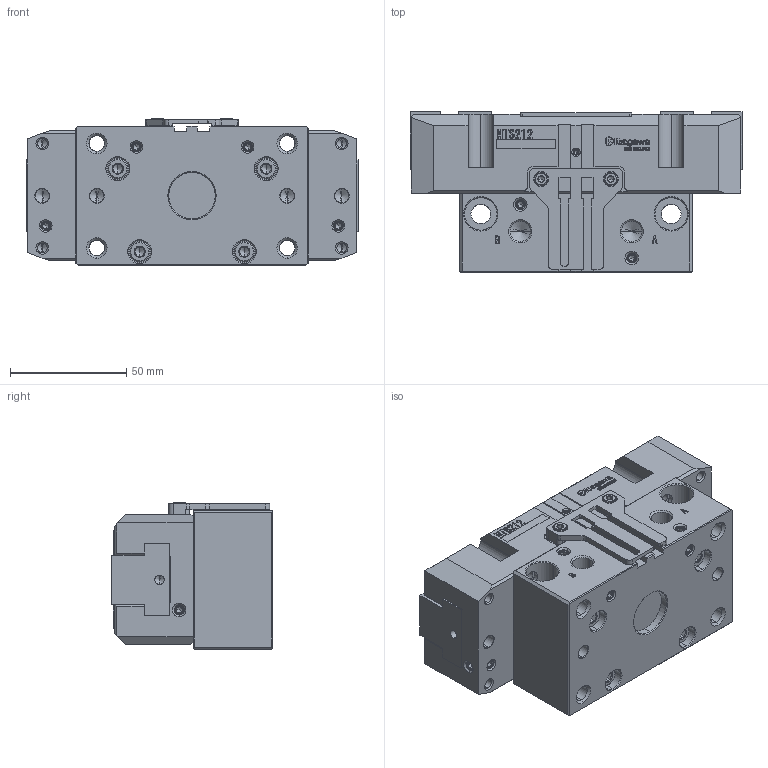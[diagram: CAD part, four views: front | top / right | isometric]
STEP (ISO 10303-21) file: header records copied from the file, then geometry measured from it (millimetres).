
FILE_DESCRIPTION (( 'STEP AP214' ), '1' );
FILE_NAME ('NTS212-UC.STEP', '2025-01-07T06:03:03', ( '' ), ( '' ), 'SwSTEP 2.0', 'SolidWorks 2022', '' );
FILE_SCHEMA (( 'AUTOMOTIVE_DESIGN' ));
Length unit declared in the file: millimetre
Products named in the file (11): BOLT1^HP-NTS212; NTS212-UC; COVER^HP-NTS212; REAR BODY^HP-NTS212; S-TOME1^HP-NTS212; BOLT2^HP-NTS212; BRACKET^HP-NTS212; BODY^HP-NTS212; S-TOME2^HP-NTS212; S-SARA^HP-NTS212; MASTER JAW^HP-NTS212
Assembly tree (26 placements, depth 2):
  NTS212-UC
    BODY^HP-NTS212
    REAR BODY^HP-NTS212
    MASTER JAW^HP-NTS212  x2
    COVER^HP-NTS212
    BRACKET^HP-NTS212
    BOLT1^HP-NTS212  x2
    BOLT2^HP-NTS212  x4
    S-TOME1^HP-NTS212  x9
    S-TOME2^HP-NTS212
    S-SARA^HP-NTS212  x4
Bounding box: 143 x 69 x 63.2 mm (x, y, z)
Volume: 422212.7 mm3; surface area: 100632.5 mm2
Topology: 26 solids, 26 shells, 2010 faces, 5428 edges, 3486 vertices
Faces by surface type: plane 1324, cone 310, cylinder 271, bspline 105
Entity records: 57732 total; most frequent: CARTESIAN_POINT 15422, ORIENTED_EDGE 8940, DIRECTION 7798, EDGE_CURVE 4470, LINE 3676, VECTOR 3676, VERTEX_POINT 2933, AXIS2_PLACEMENT_3D 2061
